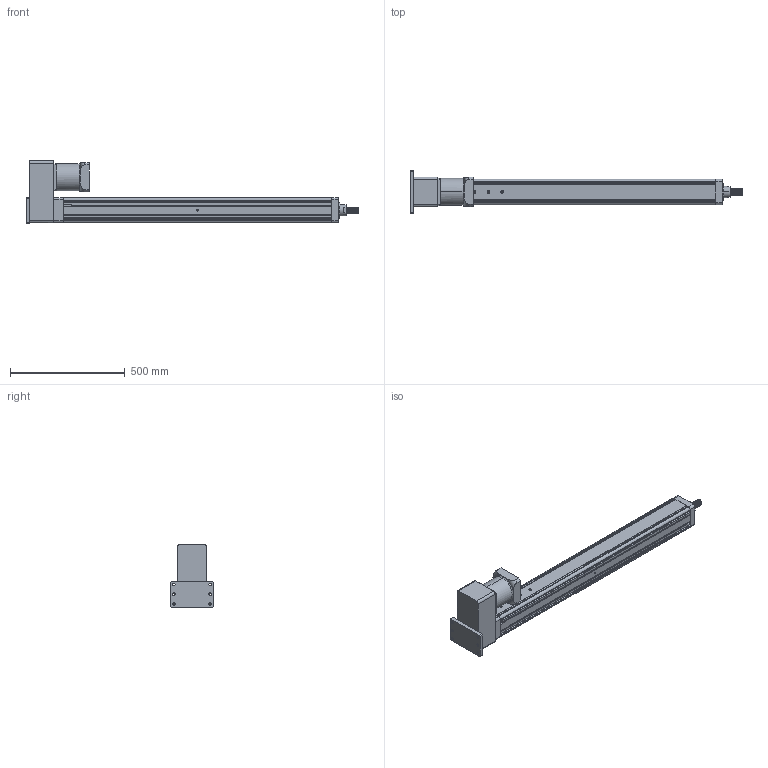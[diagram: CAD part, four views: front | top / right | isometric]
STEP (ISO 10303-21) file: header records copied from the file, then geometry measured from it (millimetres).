
FILE_DESCRIPTION (( 'STEP AP203' ), '1' );
FILE_NAME ('YRJ110-L1000-H4K1.STEP', '2020-01-06T01:54:30', ( 'User' ), ( 'China' ), 'SwSTEP 2.0', 'SolidWorks 2016', '' );
FILE_SCHEMA (( 'CONFIG_CONTROL_DESIGN' ));
Length unit declared in the file: millimetre
Products named in the file (8): H4-110; 120遺1500W珨撰熬厒儂; K1-110; YRJ110-L1000-H4K1; 095-100俴最倰第; H5-110-1; 萇儂碟-110; H3-110-2
Assembly tree (7 placements, depth 2):
  YRJ110-L1000-H4K1
    095-100俴最倰第
    H5-110-1
    萇儂碟-110
    H3-110-2
    H4-110
    120遺1500W珨撰熬厒儂
    K1-110
Bounding box: 1447 x 185 x 271 mm (x, y, z)
Volume: 11493710.9 mm3; surface area: 1429806.9 mm2
Topology: 7 solids, 7 shells, 373 faces, 1016 edges, 652 vertices
Faces by surface type: cylinder 168, plane 163, cone 29, bspline 8, torus 5
Entity records: 20627 total; most frequent: CARTESIAN_POINT 10508, ORIENTED_EDGE 2000, DIRECTION 1881, EDGE_CURVE 1000, VERTEX_POINT 652, AXIS2_PLACEMENT_3D 649, VECTOR 583, LINE 583
